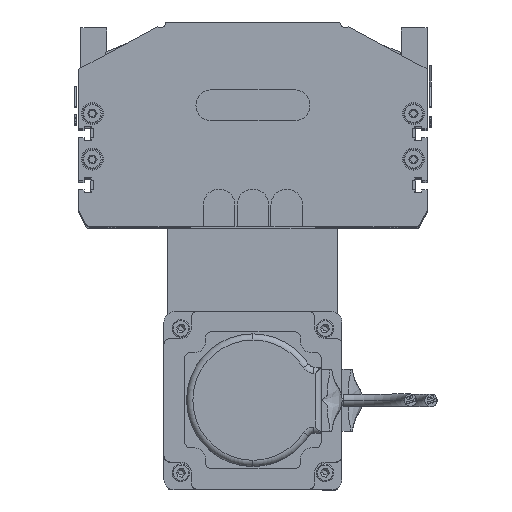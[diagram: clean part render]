
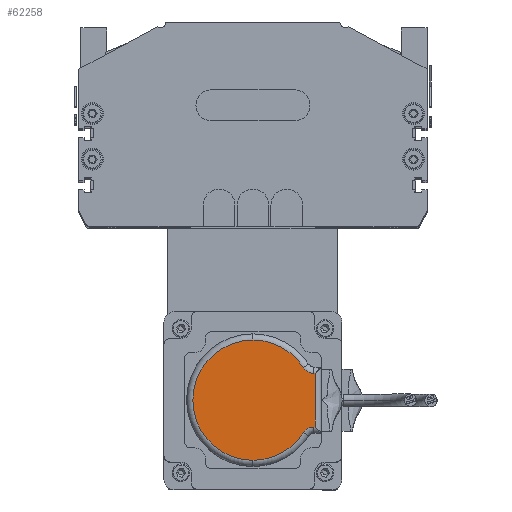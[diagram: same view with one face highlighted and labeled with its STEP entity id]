
A CAD part, top view. The second image highlights one B-rep face of the part: STEP entity #62258.
In plain terms, the highlighted planar face has unit normal (0, 0, 1).
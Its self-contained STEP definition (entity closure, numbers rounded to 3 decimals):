
#54591 = CARTESIAN_POINT ( 'NONE',  ( 62., 33., 26. ) ) ;
#54615 = DIRECTION ( 'NONE',  ( 1., 0., 0. ) ) ;
#54616 = DIRECTION ( 'NONE',  ( 0., 0., 1. ) ) ;
#54617 = CARTESIAN_POINT ( 'NONE',  ( 33., 33., 26. ) ) ;
#54621 = CIRCLE ( 'NONE', #54623, 29. ) ;
#54623 = AXIS2_PLACEMENT_3D ( 'NONE', #54617, #54616, #54615 ) ;
#54656 = CARTESIAN_POINT ( 'NONE',  ( 4., 33., 26. ) ) ;
#54719 = CIRCLE ( 'NONE', #54776, 6. ) ;
#54722 = CARTESIAN_POINT ( 'NONE',  ( 20., 63., 26. ) ) ;
#54726 = CARTESIAN_POINT ( 'NONE',  ( 48.743, 57.355, 26. ) ) ;
#54733 = DIRECTION ( 'NONE',  ( 1., 0., 0. ) ) ;
#54734 = DIRECTION ( 'NONE',  ( 0., 0., 1. ) ) ;
#54735 = CARTESIAN_POINT ( 'NONE',  ( 33., 33., 26. ) ) ;
#54736 = AXIS2_PLACEMENT_3D ( 'NONE', #54735, #54734, #54733 ) ;
#54740 = CARTESIAN_POINT ( 'NONE',  ( 17.257, 57.355, 26. ) ) ;
#54751 = CIRCLE ( 'NONE', #54736, 29. ) ;
#54771 = DIRECTION ( 'NONE',  ( 1., 0., 0. ) ) ;
#54774 = DIRECTION ( 'NONE',  ( 0., 0., 1. ) ) ;
#54775 = CARTESIAN_POINT ( 'NONE',  ( 14., 62.394, 26. ) ) ;
#54776 = AXIS2_PLACEMENT_3D ( 'NONE', #54775, #54774, #54771 ) ;
#54812 = CARTESIAN_POINT ( 'NONE',  ( 17.5, 63., 26. ) ) ;
#54813 = LINE ( 'NONE', #54812, #54849 ) ;
#54837 = DIRECTION ( 'NONE',  ( 0., -1., 0. ) ) ;
#54838 = VECTOR ( 'NONE', #54837, 1000. ) ;
#54839 = CARTESIAN_POINT ( 'NONE',  ( 20., 33., 26. ) ) ;
#54846 = LINE ( 'NONE', #54839, #54838 ) ;
#54848 = DIRECTION ( 'NONE',  ( -1., 0., 0. ) ) ;
#54849 = VECTOR ( 'NONE', #54848, 1000. ) ;
#54869 = DIRECTION ( 'NONE',  ( 0., 0., 1. ) ) ;
#54870 = CARTESIAN_POINT ( 'NONE',  ( 33., 33., 26. ) ) ;
#54871 = AXIS2_PLACEMENT_3D ( 'NONE', #54870, #54869, #54930 ) ;
#54872 = CIRCLE ( 'NONE', #54871, 29. ) ;
#54874 = CARTESIAN_POINT ( 'NONE',  ( 46., 63., 26. ) ) ;
#54875 = DIRECTION ( 'NONE',  ( 1., 0., 0. ) ) ;
#54876 = DIRECTION ( 'NONE',  ( 0., 0., 1. ) ) ;
#54877 = CARTESIAN_POINT ( 'NONE',  ( 33., 33., 26. ) ) ;
#54878 = CARTESIAN_POINT ( 'NONE',  ( 20., 62.394, 26. ) ) ;
#54882 = AXIS2_PLACEMENT_3D ( 'NONE', #54877, #54876, #54875 ) ;
#54894 = FACE_OUTER_BOUND ( 'NONE', #62201, .T. ) ;
#54895 = PLANE ( 'NONE',  #54882 ) ;
#54907 = DIRECTION ( 'NONE',  ( 1., 0., 0. ) ) ;
#54908 = DIRECTION ( 'NONE',  ( 0., 0., 1. ) ) ;
#54909 = CARTESIAN_POINT ( 'NONE',  ( 52., 62.394, 26. ) ) ;
#54910 = AXIS2_PLACEMENT_3D ( 'NONE', #54909, #54908, #54907 ) ;
#54918 = CARTESIAN_POINT ( 'NONE',  ( 46., 62.394, 26. ) ) ;
#54919 = CIRCLE ( 'NONE', #54910, 6. ) ;
#54922 = DIRECTION ( 'NONE',  ( 0., 1., 0. ) ) ;
#54923 = VECTOR ( 'NONE', #54922, 1000. ) ;
#54924 = CARTESIAN_POINT ( 'NONE',  ( 46., 33., 26. ) ) ;
#54925 = LINE ( 'NONE', #54924, #54923 ) ;
#54930 = DIRECTION ( 'NONE',  ( 1., 0., 0. ) ) ;
#62162 = VERTEX_POINT ( 'NONE', #54591 ) ;
#62169 = EDGE_CURVE ( 'NONE', #62181, #62162, #54621, .T. ) ;
#62181 = VERTEX_POINT ( 'NONE', #54656 ) ;
#62194 = VERTEX_POINT ( 'NONE', #54740 ) ;
#62195 = EDGE_CURVE ( 'NONE', #62194, #62181, #54751, .T. ) ;
#62199 = VERTEX_POINT ( 'NONE', #54726 ) ;
#62201 = EDGE_LOOP ( 'NONE', ( #62276, #62263, #62262, #62259, #62257, #62242, #62261, #62247 ) ) ;
#62204 = EDGE_CURVE ( 'NONE', #62194, #62273, #54719, .T. ) ;
#62206 = VERTEX_POINT ( 'NONE', #54722 ) ;
#62242 = ORIENTED_EDGE ( 'NONE', *, *, #62268, .T. ) ;
#62243 = EDGE_CURVE ( 'NONE', #62265, #62206, #54813, .T. ) ;
#62245 = EDGE_CURVE ( 'NONE', #62206, #62273, #54846, .T. ) ;
#62247 = ORIENTED_EDGE ( 'NONE', *, *, #62245, .T. ) ;
#62257 = ORIENTED_EDGE ( 'NONE', *, *, #62275, .F. ) ;
#62258 = ADVANCED_FACE ( 'NONE', ( #54894 ), #54895, .T. ) ;
#62259 = ORIENTED_EDGE ( 'NONE', *, *, #62264, .T. ) ;
#62261 = ORIENTED_EDGE ( 'NONE', *, *, #62243, .T. ) ;
#62262 = ORIENTED_EDGE ( 'NONE', *, *, #62169, .T. ) ;
#62263 = ORIENTED_EDGE ( 'NONE', *, *, #62195, .T. ) ;
#62264 = EDGE_CURVE ( 'NONE', #62162, #62199, #54872, .T. ) ;
#62265 = VERTEX_POINT ( 'NONE', #54874 ) ;
#62268 = EDGE_CURVE ( 'NONE', #62271, #62265, #54925, .T. ) ;
#62271 = VERTEX_POINT ( 'NONE', #54918 ) ;
#62273 = VERTEX_POINT ( 'NONE', #54878 ) ;
#62275 = EDGE_CURVE ( 'NONE', #62271, #62199, #54919, .T. ) ;
#62276 = ORIENTED_EDGE ( 'NONE', *, *, #62204, .F. ) ;
